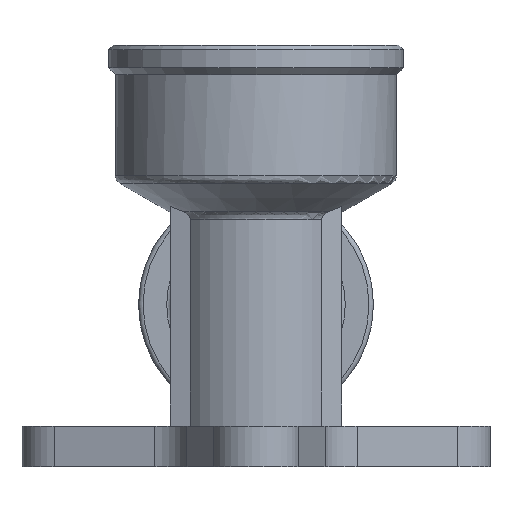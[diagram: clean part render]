
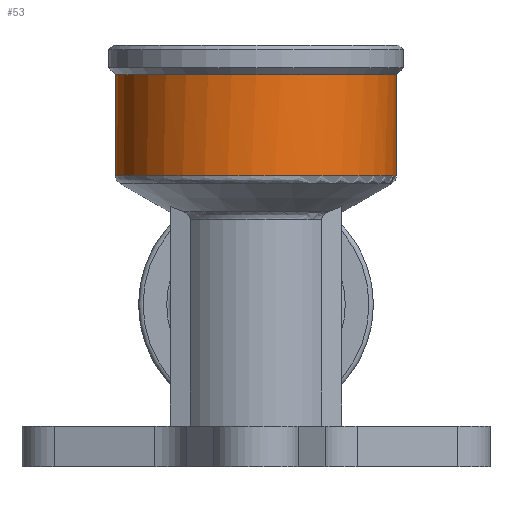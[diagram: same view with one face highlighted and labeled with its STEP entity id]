
A CAD part, front view. The second image highlights one B-rep face of the part: STEP entity #53.
In plain terms, the highlighted cylindrical face has radius 15.5 mm (diameter 31 mm), a full revolution.
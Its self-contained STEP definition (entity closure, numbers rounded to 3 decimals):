
#53=ADVANCED_FACE('',(#462,#464),#466,.T.);
#462=FACE_BOUND('',#463,.T.);
#463=EDGE_LOOP('',(#4519,#4520,#4521,#4522,#4523));
#464=FACE_BOUND('',#465,.T.);
#465=EDGE_LOOP('',(#4524,#4525));
#466=CYLINDRICAL_SURFACE('',#467,15.5);
#467=AXIS2_PLACEMENT_3D('',#468,#469,#470);
#468=CARTESIAN_POINT('',(0.,0.,13.6));
#469=DIRECTION('',(0.,0.,1.));
#470=DIRECTION('',(-1.,0.,0.));
#4519=ORIENTED_EDGE('',*,*,#6648,.T.);
#4520=ORIENTED_EDGE('',*,*,#6649,.F.);
#4521=ORIENTED_EDGE('',*,*,#6650,.F.);
#4522=ORIENTED_EDGE('',*,*,#6651,.F.);
#4523=ORIENTED_EDGE('',*,*,#6652,.F.);
#4524=ORIENTED_EDGE('',*,*,#6646,.F.);
#4525=ORIENTED_EDGE('',*,*,#6645,.F.);
#6645=EDGE_CURVE('',#7512,#7513,#7514,.T.);
#6646=EDGE_CURVE('',#7513,#7512,#7515,.T.);
#6648=EDGE_CURVE('',#7518,#7519,#7520,.T.);
#6649=EDGE_CURVE('',#7521,#7519,#7522,.F.);
#6650=EDGE_CURVE('',#7523,#7521,#7524,.T.);
#6651=EDGE_CURVE('',#7525,#7523,#7526,.T.);
#6652=EDGE_CURVE('',#7518,#7525,#7527,.T.);
#7512=VERTEX_POINT('',#9211);
#7513=VERTEX_POINT('',#9212);
#7514=CIRCLE('',#9213,15.5);
#7515=CIRCLE('',#9217,15.5);
#7518=VERTEX_POINT('',#9226);
#7519=VERTEX_POINT('',#9227);
#7520=LINE('',#9228,#9229);
#7521=VERTEX_POINT('',#9231);
#7522=B_SPLINE_CURVE_WITH_KNOTS('',3,
(#9232,#9233,#9234,#9235,#9236,#9237,#9238,#9239,#9240,#9241,#9242,#9243),
.UNSPECIFIED.,.F.,.F.,
(4,1,1,1,1,1,1,1,1,4),
(0.,0.179,0.327,0.445,0.533,0.63,
0.733,0.849,0.937,1.),
.UNSPECIFIED.);
#7523=VERTEX_POINT('',#9244);
#7524=LINE('',#9245,#9246);
#7525=VERTEX_POINT('',#9248);
#7526=CIRCLE('',#9249,15.5);
#7527=CIRCLE('',#9253,15.5);
#9211=CARTESIAN_POINT('',(0.,15.5,25.35));
#9212=CARTESIAN_POINT('',(-15.5,0.,25.35));
#9213=AXIS2_PLACEMENT_3D('',#9214,#9215,#9216);
#9214=CARTESIAN_POINT('',(0.,0.,25.35));
#9215=DIRECTION('',(0.,0.,1.));
#9216=DIRECTION('',(0.,1.,0.));
#9217=AXIS2_PLACEMENT_3D('',#9218,#9219,#9220);
#9218=CARTESIAN_POINT('',(0.,0.,25.35));
#9219=DIRECTION('',(0.,0.,1.));
#9220=DIRECTION('',(-1.,0.,0.));
#9226=CARTESIAN_POINT('',(1.5,15.427,14.177));
#9227=CARTESIAN_POINT('',(1.5,15.427,12.017));
#9228=CARTESIAN_POINT('',(1.5,15.427,14.177));
#9229=VECTOR('',#9230,1.);
#9230=DIRECTION('',(0.,0.,-1.));
#9231=CARTESIAN_POINT('',(-1.5,15.427,12.017));
#9232=CARTESIAN_POINT('',(1.5,15.427,12.017));
#9233=CARTESIAN_POINT('',(1.324,15.444,12.05));
#9234=CARTESIAN_POINT('',(0.998,15.47,12.096));
#9235=CARTESIAN_POINT('',(0.553,15.492,12.135));
#9236=CARTESIAN_POINT('',(0.196,15.5,12.15));
#9237=CARTESIAN_POINT('',(-0.108,15.5,12.151));
#9238=CARTESIAN_POINT('',(-0.398,15.496,12.142));
#9239=CARTESIAN_POINT('',(-0.714,15.485,12.122));
#9240=CARTESIAN_POINT('',(-1.022,15.467,12.091));
#9241=CARTESIAN_POINT('',(-1.288,15.447,12.053));
#9242=CARTESIAN_POINT('',(-1.438,15.433,12.028));
#9243=CARTESIAN_POINT('',(-1.5,15.427,12.017));
#9244=CARTESIAN_POINT('',(-1.5,15.427,14.177));
#9245=CARTESIAN_POINT('',(-1.5,15.427,14.177));
#9246=VECTOR('',#9247,1.);
#9247=DIRECTION('',(0.,0.,-1.));
#9248=CARTESIAN_POINT('',(-15.5,0.,14.177));
#9249=AXIS2_PLACEMENT_3D('',#9250,#9251,#9252);
#9250=CARTESIAN_POINT('',(0.,0.,14.177));
#9251=DIRECTION('',(0.,0.,-1.));
#9252=DIRECTION('',(-1.,0.,0.));
#9253=AXIS2_PLACEMENT_3D('',#9254,#9255,#9256);
#9254=CARTESIAN_POINT('',(0.,0.,14.177));
#9255=DIRECTION('',(0.,0.,-1.));
#9256=DIRECTION('',(0.097,0.995,0.));
